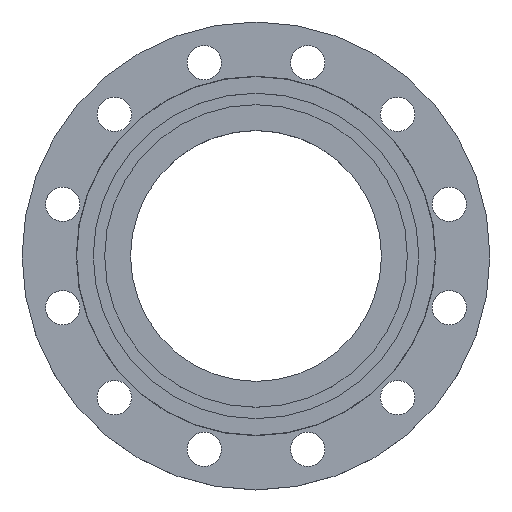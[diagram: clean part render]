
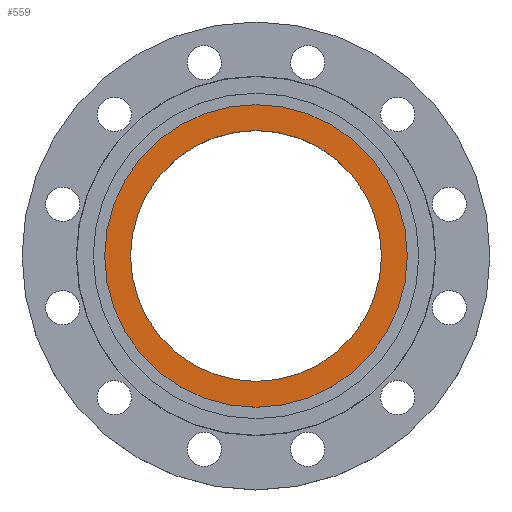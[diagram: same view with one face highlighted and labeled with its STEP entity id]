
A CAD part, top view. The second image highlights one B-rep face of the part: STEP entity #559.
In plain terms, the highlighted planar face has unit normal (0, 0, 1).
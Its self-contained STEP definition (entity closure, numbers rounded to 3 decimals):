
#2 = DIRECTION ( 'NONE',  ( 0., 0., 1. ) ) ;
#4 = DIRECTION ( 'NONE',  ( 1., 0., 0. ) ) ;
#9 = CARTESIAN_POINT ( 'NONE',  ( 0., 0., 0. ) ) ;
#12 = EDGE_CURVE ( 'NONE', #1383, #1453, #233, .T. ) ;
#16 = CARTESIAN_POINT ( 'NONE',  ( -120.67, 0., 0. ) ) ;
#47 = DIRECTION ( 'NONE',  ( 1., 0., 0. ) ) ;
#52 = DIRECTION ( 'NONE',  ( 0., 0., 1. ) ) ;
#54 = CARTESIAN_POINT ( 'NONE',  ( 0., 0., 0. ) ) ;
#123 = AXIS2_PLACEMENT_3D ( 'NONE', #633, #632, #631 ) ;
#233 = CIRCLE ( 'NONE', #343, 145.5 ) ;
#286 = CARTESIAN_POINT ( 'NONE',  ( 145.5, 0., 0. ) ) ;
#287 = CARTESIAN_POINT ( 'NONE',  ( 120.67, 0., 0. ) ) ;
#343 = AXIS2_PLACEMENT_3D ( 'NONE', #941, #940, #939 ) ;
#379 = CARTESIAN_POINT ( 'NONE',  ( -145.5, 0., 0. ) ) ;
#559 = ADVANCED_FACE ( 'NONE', ( #640, #637 ), #635, .T. ) ;
#596 = EDGE_CURVE ( 'NONE', #1453, #1383, #1350, .T. ) ;
#626 = DIRECTION ( 'NONE',  ( -1., 0., 0. ) ) ;
#627 = DIRECTION ( 'NONE',  ( 0., 0., -1. ) ) ;
#630 = CARTESIAN_POINT ( 'NONE',  ( 0., 0., 0. ) ) ;
#631 = DIRECTION ( 'NONE',  ( 1., 0., 0. ) ) ;
#632 = DIRECTION ( 'NONE',  ( 0., 0., 1. ) ) ;
#633 = CARTESIAN_POINT ( 'NONE',  ( 0., 0., 0. ) ) ;
#635 = PLANE ( 'NONE',  #123 ) ;
#637 = FACE_OUTER_BOUND ( 'NONE', #1440, .T. ) ;
#640 = FACE_BOUND ( 'NONE', #1061, .T. ) ;
#939 = DIRECTION ( 'NONE',  ( -1., 0., 0. ) ) ;
#940 = DIRECTION ( 'NONE',  ( 0., 0., -1. ) ) ;
#941 = CARTESIAN_POINT ( 'NONE',  ( 0., 0., 0. ) ) ;
#972 = VERTEX_POINT ( 'NONE', #287 ) ;
#1061 = EDGE_LOOP ( 'NONE', ( #1230, #1231 ) ) ;
#1230 = ORIENTED_EDGE ( 'NONE', *, *, #1294, .F. ) ;
#1231 = ORIENTED_EDGE ( 'NONE', *, *, #1328, .F. ) ;
#1232 = ORIENTED_EDGE ( 'NONE', *, *, #12, .F. ) ;
#1233 = ORIENTED_EDGE ( 'NONE', *, *, #596, .F. ) ;
#1242 = AXIS2_PLACEMENT_3D ( 'NONE', #9, #2, #4 ) ;
#1252 = CIRCLE ( 'NONE', #1242, 120.67 ) ;
#1294 = EDGE_CURVE ( 'NONE', #972, #1319, #1324, .T. ) ;
#1318 = AXIS2_PLACEMENT_3D ( 'NONE', #54, #52, #47 ) ;
#1319 = VERTEX_POINT ( 'NONE', #16 ) ;
#1324 = CIRCLE ( 'NONE', #1318, 120.67 ) ;
#1328 = EDGE_CURVE ( 'NONE', #1319, #972, #1252, .T. ) ;
#1349 = AXIS2_PLACEMENT_3D ( 'NONE', #630, #627, #626 ) ;
#1350 = CIRCLE ( 'NONE', #1349, 145.5 ) ;
#1383 = VERTEX_POINT ( 'NONE', #379 ) ;
#1440 = EDGE_LOOP ( 'NONE', ( #1232, #1233 ) ) ;
#1453 = VERTEX_POINT ( 'NONE', #286 ) ;
